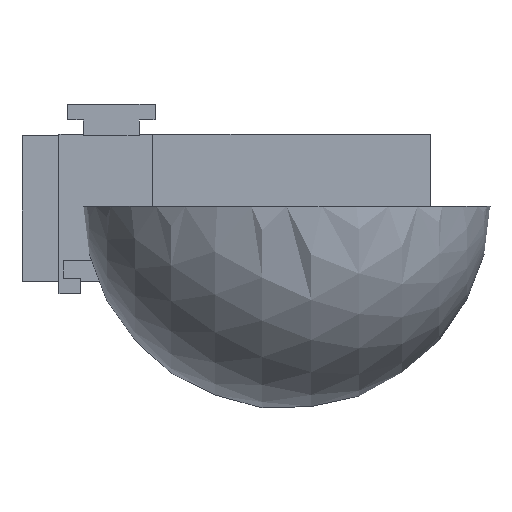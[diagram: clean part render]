
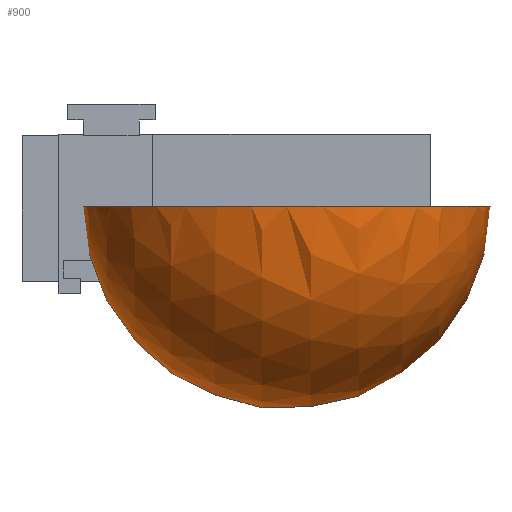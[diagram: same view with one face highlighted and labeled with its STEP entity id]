
A CAD part, left-side view. The second image highlights one B-rep face of the part: STEP entity #900.
In plain terms, the highlighted spherical face has radius 6.365 mm.
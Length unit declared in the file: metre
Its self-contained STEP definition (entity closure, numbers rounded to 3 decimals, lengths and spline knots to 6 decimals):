
#12=CIRCLE('',#960,0.001162);
#13=CIRCLE('',#961,0.006365);
#15=SPHERICAL_SURFACE('',#959,0.006365);
#219=ORIENTED_EDGE('',*,*,#377,.F.);
#220=ORIENTED_EDGE('',*,*,#378,.F.);
#377=EDGE_CURVE('',#469,#470,#12,.T.);
#378=EDGE_CURVE('',#470,#469,#13,.T.);
#469=VERTEX_POINT('',#1416);
#470=VERTEX_POINT('',#1417);
#760=EDGE_LOOP('',(#219,#220));
#808=FACE_BOUND('',#760,.T.);
#900=ADVANCED_FACE('',(#808),#15,.T.);
#959=AXIS2_PLACEMENT_3D('',#1414,#1153,#1154);
#960=AXIS2_PLACEMENT_3D('',#1415,#1155,#1156);
#961=AXIS2_PLACEMENT_3D('',#1418,#1157,#1158);
#1153=DIRECTION('',(0.,1.,0.));
#1154=DIRECTION('',(-1.,0.,0.));
#1155=DIRECTION('',(1.,0.,0.));
#1156=DIRECTION('',(0.,0.,-1.));
#1157=DIRECTION('',(0.,0.,1.));
#1158=DIRECTION('',(0.,-1.,0.));
#1414=CARTESIAN_POINT('',(-0.135,0.005,0.002747));
#1415=CARTESIAN_POINT('',(-0.128742,0.005,0.002747));
#1416=CARTESIAN_POINT('',(-0.128742,0.003838,0.002747));
#1417=CARTESIAN_POINT('',(-0.128742,0.006162,0.002747));
#1418=CARTESIAN_POINT('',(-0.135,0.005,0.002747));
